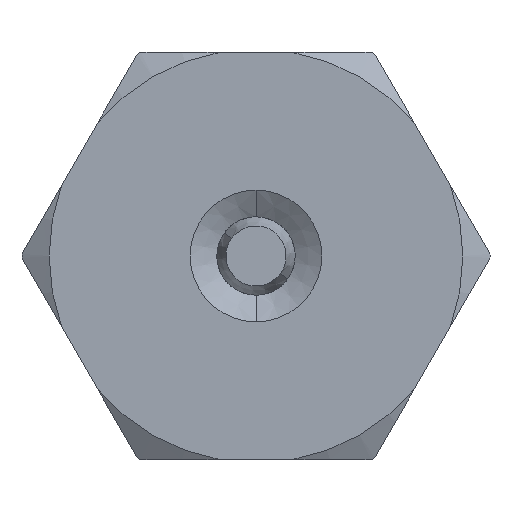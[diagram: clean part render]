
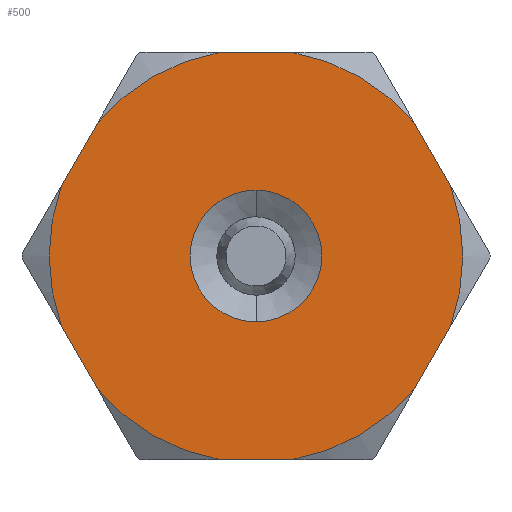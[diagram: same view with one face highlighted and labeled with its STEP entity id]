
A CAD part, left-side view. The second image highlights one B-rep face of the part: STEP entity #500.
In plain terms, the highlighted planar face has unit normal (-1, 0, 0).
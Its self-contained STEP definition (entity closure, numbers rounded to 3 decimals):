
#179 = CIRCLE ( 'NONE', #3089, 2.1 ) ;
#258 = CIRCLE ( 'NONE', #357, 6.6 ) ;
#259 = CIRCLE ( 'NONE', #359, 6.6 ) ;
#260 = CIRCLE ( 'NONE', #360, 6.6 ) ;
#261 = CIRCLE ( 'NONE', #361, 6.6 ) ;
#262 = CIRCLE ( 'NONE', #362, 6.6 ) ;
#263 = CIRCLE ( 'NONE', #363, 6.6 ) ;
#264 = CIRCLE ( 'NONE', #364, 2.1 ) ;
#357 = AXIS2_PLACEMENT_3D ( 'NONE', #2515, #2516, #2517 ) ;
#359 = AXIS2_PLACEMENT_3D ( 'NONE', #2518, #2519, #2520 ) ;
#360 = AXIS2_PLACEMENT_3D ( 'NONE', #2531, #2532, #2533 ) ;
#361 = AXIS2_PLACEMENT_3D ( 'NONE', #2546, #2547, #2548 ) ;
#362 = AXIS2_PLACEMENT_3D ( 'NONE', #2561, #2562, #2563 ) ;
#363 = AXIS2_PLACEMENT_3D ( 'NONE', #2574, #2575, #2576 ) ;
#364 = AXIS2_PLACEMENT_3D ( 'NONE', #2589, #2590, #2591 ) ;
#365 = VECTOR ( 'NONE', #2595, 1000. ) ;
#366 = VECTOR ( 'NONE', #2598, 1000. ) ;
#367 = VECTOR ( 'NONE', #2601, 1000. ) ;
#368 = VECTOR ( 'NONE', #2604, 1000. ) ;
#369 = VECTOR ( 'NONE', #2607, 1000. ) ;
#371 = VECTOR ( 'NONE', #2610, 1000. ) ;
#431 = EDGE_CURVE ( 'NONE', #648, #649, #179, .T. ) ;
#500 = ADVANCED_FACE ( 'NONE', ( #3190, #3195 ), #2194, .F. ) ;
#585 = EDGE_CURVE ( 'NONE', #888, #889, #258, .T. ) ;
#586 = EDGE_CURVE ( 'NONE', #891, #890, #259, .T. ) ;
#589 = EDGE_CURVE ( 'NONE', #893, #892, #260, .T. ) ;
#592 = EDGE_CURVE ( 'NONE', #895, #894, #261, .T. ) ;
#595 = EDGE_CURVE ( 'NONE', #897, #896, #262, .T. ) ;
#598 = EDGE_CURVE ( 'NONE', #899, #898, #263, .T. ) ;
#601 = EDGE_CURVE ( 'NONE', #649, #648, #264, .T. ) ;
#602 = EDGE_CURVE ( 'NONE', #888, #890, #2593, .T. ) ;
#603 = EDGE_CURVE ( 'NONE', #899, #889, #2596, .T. ) ;
#604 = EDGE_CURVE ( 'NONE', #897, #898, #2599, .T. ) ;
#605 = EDGE_CURVE ( 'NONE', #895, #896, #2602, .T. ) ;
#606 = EDGE_CURVE ( 'NONE', #893, #894, #2605, .T. ) ;
#607 = EDGE_CURVE ( 'NONE', #891, #892, #2608, .T. ) ;
#648 = VERTEX_POINT ( 'NONE', #2708 ) ;
#649 = VERTEX_POINT ( 'NONE', #2709 ) ;
#856 = ORIENTED_EDGE ( 'NONE', *, *, #602, .F. ) ;
#857 = ORIENTED_EDGE ( 'NONE', *, *, #601, .F. ) ;
#858 = ORIENTED_EDGE ( 'NONE', *, *, #603, .F. ) ;
#859 = ORIENTED_EDGE ( 'NONE', *, *, #431, .F. ) ;
#860 = ORIENTED_EDGE ( 'NONE', *, *, #585, .T. ) ;
#861 = ORIENTED_EDGE ( 'NONE', *, *, #598, .T. ) ;
#862 = ORIENTED_EDGE ( 'NONE', *, *, #604, .F. ) ;
#863 = ORIENTED_EDGE ( 'NONE', *, *, #595, .T. ) ;
#864 = ORIENTED_EDGE ( 'NONE', *, *, #605, .F. ) ;
#865 = ORIENTED_EDGE ( 'NONE', *, *, #592, .T. ) ;
#866 = ORIENTED_EDGE ( 'NONE', *, *, #606, .F. ) ;
#867 = ORIENTED_EDGE ( 'NONE', *, *, #589, .T. ) ;
#868 = ORIENTED_EDGE ( 'NONE', *, *, #607, .F. ) ;
#870 = ORIENTED_EDGE ( 'NONE', *, *, #586, .T. ) ;
#888 = VERTEX_POINT ( 'NONE', #2778 ) ;
#889 = VERTEX_POINT ( 'NONE', #2779 ) ;
#890 = VERTEX_POINT ( 'NONE', #2780 ) ;
#891 = VERTEX_POINT ( 'NONE', #2781 ) ;
#892 = VERTEX_POINT ( 'NONE', #2782 ) ;
#893 = VERTEX_POINT ( 'NONE', #2783 ) ;
#894 = VERTEX_POINT ( 'NONE', #2784 ) ;
#895 = VERTEX_POINT ( 'NONE', #2785 ) ;
#896 = VERTEX_POINT ( 'NONE', #2786 ) ;
#897 = VERTEX_POINT ( 'NONE', #2787 ) ;
#898 = VERTEX_POINT ( 'NONE', #2788 ) ;
#899 = VERTEX_POINT ( 'NONE', #2789 ) ;
#1356 = EDGE_LOOP ( 'NONE', ( #857, #859 ) ) ;
#1357 = EDGE_LOOP ( 'NONE', ( #856, #860, #858, #861, #862, #863, #864, #865, #866, #867, #868, #870 ) ) ;
#1986 = CARTESIAN_POINT ( 'NONE',  ( 0., 0., 0. ) ) ;
#1987 = DIRECTION ( 'NONE',  ( -1., 0., 0. ) ) ;
#1988 = DIRECTION ( 'NONE',  ( 0., 0., 1. ) ) ;
#2194 = PLANE ( 'NONE',  #3197 ) ;
#2195 = CARTESIAN_POINT ( 'NONE',  ( 0., 1.25, 0. ) ) ;
#2196 = DIRECTION ( 'NONE',  ( 1., 0., 0. ) ) ;
#2197 = DIRECTION ( 'NONE',  ( 0., 0., -1. ) ) ;
#2515 = CARTESIAN_POINT ( 'NONE',  ( 0., 0., 0. ) ) ;
#2516 = DIRECTION ( 'NONE',  ( -1., 0., 0. ) ) ;
#2517 = DIRECTION ( 'NONE',  ( 0., 0., 1. ) ) ;
#2518 = CARTESIAN_POINT ( 'NONE',  ( 0., 0., 0. ) ) ;
#2519 = DIRECTION ( 'NONE',  ( -1., 0., 0. ) ) ;
#2520 = DIRECTION ( 'NONE',  ( 0., 0., 1. ) ) ;
#2531 = CARTESIAN_POINT ( 'NONE',  ( 0., 0., 0. ) ) ;
#2532 = DIRECTION ( 'NONE',  ( -1., 0., 0. ) ) ;
#2533 = DIRECTION ( 'NONE',  ( 0., 0., 1. ) ) ;
#2546 = CARTESIAN_POINT ( 'NONE',  ( 0., 0., 0. ) ) ;
#2547 = DIRECTION ( 'NONE',  ( -1., 0., 0. ) ) ;
#2548 = DIRECTION ( 'NONE',  ( 0., 0., 1. ) ) ;
#2561 = CARTESIAN_POINT ( 'NONE',  ( 0., 0., 0. ) ) ;
#2562 = DIRECTION ( 'NONE',  ( -1., 0., 0. ) ) ;
#2563 = DIRECTION ( 'NONE',  ( 0., 0., 1. ) ) ;
#2574 = CARTESIAN_POINT ( 'NONE',  ( 0., 0., 0. ) ) ;
#2575 = DIRECTION ( 'NONE',  ( -1., 0., 0. ) ) ;
#2576 = DIRECTION ( 'NONE',  ( 0., 0., 1. ) ) ;
#2589 = CARTESIAN_POINT ( 'NONE',  ( 0., 0., 0. ) ) ;
#2590 = DIRECTION ( 'NONE',  ( -1., 0., 0. ) ) ;
#2591 = DIRECTION ( 'NONE',  ( 0., 0., 1. ) ) ;
#2593 = LINE ( 'NONE', #2594, #365 ) ;
#2594 = CARTESIAN_POINT ( 'NONE',  ( 0., 5.942, 2.709 ) ) ;
#2595 = DIRECTION ( 'NONE',  ( 0., -0.5, 0.866 ) ) ;
#2596 = LINE ( 'NONE', #2597, #366 ) ;
#2597 = CARTESIAN_POINT ( 'NONE',  ( 0., 5.942, -2.709 ) ) ;
#2598 = DIRECTION ( 'NONE',  ( 0., 0.5, 0.866 ) ) ;
#2599 = LINE ( 'NONE', #2600, #367 ) ;
#2600 = CARTESIAN_POINT ( 'NONE',  ( 0., 1.25, -6.5 ) ) ;
#2601 = DIRECTION ( 'NONE',  ( 0., 1., 0. ) ) ;
#2602 = LINE ( 'NONE', #2603, #368 ) ;
#2603 = CARTESIAN_POINT ( 'NONE',  ( 0., -5.317, -3.791 ) ) ;
#2604 = DIRECTION ( 'NONE',  ( 0., 0.5, -0.866 ) ) ;
#2605 = LINE ( 'NONE', #2606, #369 ) ;
#2606 = CARTESIAN_POINT ( 'NONE',  ( 0., -5.317, 3.791 ) ) ;
#2607 = DIRECTION ( 'NONE',  ( 0., -0.5, -0.866 ) ) ;
#2608 = LINE ( 'NONE', #2609, #371 ) ;
#2609 = CARTESIAN_POINT ( 'NONE',  ( 0., 1.25, 6.5 ) ) ;
#2610 = DIRECTION ( 'NONE',  ( 0., -1., 0. ) ) ;
#2708 = CARTESIAN_POINT ( 'NONE',  ( 0., 0., -2.1 ) ) ;
#2709 = CARTESIAN_POINT ( 'NONE',  ( 0., 0., 2.1 ) ) ;
#2778 = CARTESIAN_POINT ( 'NONE',  ( 0., 6.201, 2.259 ) ) ;
#2779 = CARTESIAN_POINT ( 'NONE',  ( 0., 6.201, -2.259 ) ) ;
#2780 = CARTESIAN_POINT ( 'NONE',  ( 0., 5.057, 4.241 ) ) ;
#2781 = CARTESIAN_POINT ( 'NONE',  ( 0., 1.145, 6.5 ) ) ;
#2782 = CARTESIAN_POINT ( 'NONE',  ( 0., -1.145, 6.5 ) ) ;
#2783 = CARTESIAN_POINT ( 'NONE',  ( 0., -5.057, 4.241 ) ) ;
#2784 = CARTESIAN_POINT ( 'NONE',  ( 0., -6.201, 2.259 ) ) ;
#2785 = CARTESIAN_POINT ( 'NONE',  ( 0., -6.201, -2.259 ) ) ;
#2786 = CARTESIAN_POINT ( 'NONE',  ( 0., -5.057, -4.241 ) ) ;
#2787 = CARTESIAN_POINT ( 'NONE',  ( 0., -1.145, -6.5 ) ) ;
#2788 = CARTESIAN_POINT ( 'NONE',  ( 0., 1.145, -6.5 ) ) ;
#2789 = CARTESIAN_POINT ( 'NONE',  ( 0., 5.057, -4.241 ) ) ;
#3089 = AXIS2_PLACEMENT_3D ( 'NONE', #1986, #1987, #1988 ) ;
#3190 = FACE_BOUND ( 'NONE', #1356, .T. ) ;
#3195 = FACE_OUTER_BOUND ( 'NONE', #1357, .T. ) ;
#3197 = AXIS2_PLACEMENT_3D ( 'NONE', #2195, #2196, #2197 ) ;
